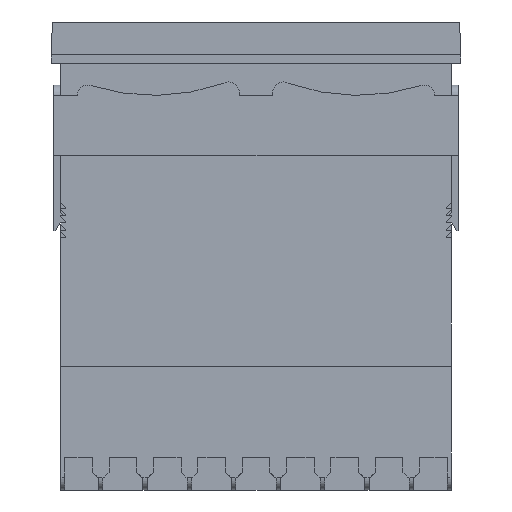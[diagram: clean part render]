
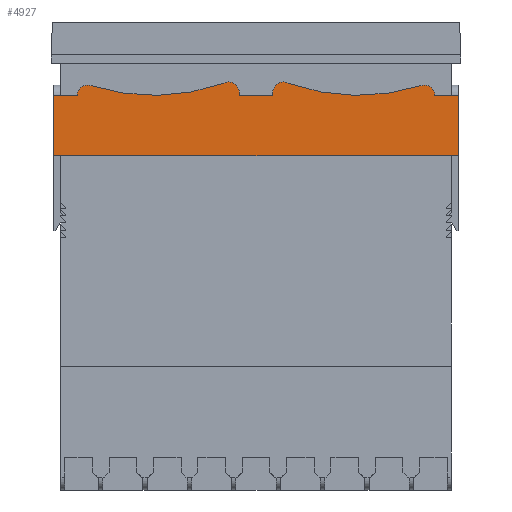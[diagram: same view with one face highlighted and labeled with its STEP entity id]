
A CAD part, left-side view. The second image highlights one B-rep face of the part: STEP entity #4927.
In plain terms, the highlighted planar face has unit normal (-1, 0, 0).
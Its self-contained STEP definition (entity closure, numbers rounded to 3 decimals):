
#320 = CARTESIAN_POINT ( 'NONE',  ( -48.761, -0.813, 14.75 ) ) ;
#432 = CIRCLE ( 'NONE', #5147, 48.6 ) ;
#597 = EDGE_CURVE ( 'NONE', #3193, #18041, #11794, .T. ) ;
#643 = LINE ( 'NONE', #12788, #15044 ) ;
#890 = EDGE_CURVE ( 'NONE', #7067, #5244, #643, .T. ) ;
#986 = ORIENTED_EDGE ( 'NONE', *, *, #18493, .F. ) ;
#1551 = ORIENTED_EDGE ( 'NONE', *, *, #2376, .F. ) ;
#1556 = CARTESIAN_POINT ( 'NONE',  ( -48.761, -38.793, 14. ) ) ;
#1569 = ORIENTED_EDGE ( 'NONE', *, *, #890, .F. ) ;
#1662 = CARTESIAN_POINT ( 'NONE',  ( -48.761, 50.577, 14. ) ) ;
#1707 = CARTESIAN_POINT ( 'NONE',  ( -48.761, -3.313, 14.75 ) ) ;
#1751 = CARTESIAN_POINT ( 'NONE',  ( -48.761, 45.047, 14. ) ) ;
#1869 = DIRECTION ( 'NONE',  ( 0., 0., 1. ) ) ;
#2046 = DIRECTION ( 'NONE',  ( 1., 0., 0. ) ) ;
#2112 = LINE ( 'NONE', #15714, #5132 ) ;
#2319 = DIRECTION ( 'NONE',  ( 0., 1., 0. ) ) ;
#2352 = VERTEX_POINT ( 'NONE', #320 ) ;
#2376 = EDGE_CURVE ( 'NONE', #5485, #18933, #6137, .T. ) ;
#2512 = ORIENTED_EDGE ( 'NONE', *, *, #4126, .F. ) ;
#2663 = DIRECTION ( 'NONE',  ( 0., 1., 0. ) ) ;
#2713 = CARTESIAN_POINT ( 'NONE',  ( -48.761, -4.526, 16.936 ) ) ;
#2978 = ORIENTED_EDGE ( 'NONE', *, *, #18658, .F. ) ;
#3080 = VERTEX_POINT ( 'NONE', #2713 ) ;
#3193 = VERTEX_POINT ( 'NONE', #7510 ) ;
#3195 = DIRECTION ( 'NONE',  ( 0., 1., 0. ) ) ;
#3269 = ORIENTED_EDGE ( 'NONE', *, *, #4496, .F. ) ;
#3274 = LINE ( 'NONE', #12312, #5837 ) ;
#3804 = VERTEX_POINT ( 'NONE', #9318 ) ;
#4042 = DIRECTION ( 'NONE',  ( -1., 0., 0. ) ) ;
#4126 = EDGE_CURVE ( 'NONE', #3804, #12646, #16297, .T. ) ;
#4496 = EDGE_CURVE ( 'NONE', #17857, #7780, #18830, .T. ) ;
#4595 = CIRCLE ( 'NONE', #9400, 48.6 ) ;
#4927 = ADVANCED_FACE ( 'NONE', ( #5556 ), #15193, .F. ) ;
#4936 = CARTESIAN_POINT ( 'NONE',  ( -48.761, 7.067, 14.75 ) ) ;
#5132 = VECTOR ( 'NONE', #8357, 1000. ) ;
#5147 = AXIS2_PLACEMENT_3D ( 'NONE', #16000, #4042, #2663 ) ;
#5244 = VERTEX_POINT ( 'NONE', #8615 ) ;
#5485 = VERTEX_POINT ( 'NONE', #19274 ) ;
#5556 = FACE_OUTER_BOUND ( 'NONE', #7444, .T. ) ;
#5689 = AXIS2_PLACEMENT_3D ( 'NONE', #1662, #14999, #16691 ) ;
#5789 = DIRECTION ( 'NONE',  ( 1., 0., 0. ) ) ;
#5837 = VECTOR ( 'NONE', #13890, 1000. ) ;
#6137 = CIRCLE ( 'NONE', #11393, 2.5 ) ;
#6477 = DIRECTION ( 'NONE',  ( 0., 1., 0. ) ) ;
#6608 = CARTESIAN_POINT ( 'NONE',  ( -48.761, -44.323, 0. ) ) ;
#7067 = VERTEX_POINT ( 'NONE', #19057 ) ;
#7444 = EDGE_LOOP ( 'NONE', ( #17151, #2978, #1551, #12559, #986, #12509, #1569, #13321, #2512, #16354, #3269, #16782, #16293, #13834 ) ) ;
#7510 = CARTESIAN_POINT ( 'NONE',  ( -48.761, 50.577, 0. ) ) ;
#7676 = EDGE_CURVE ( 'NONE', #3080, #5485, #432, .T. ) ;
#7780 = VERTEX_POINT ( 'NONE', #17878 ) ;
#7846 = CARTESIAN_POINT ( 'NONE',  ( -48.761, -36.293, 14. ) ) ;
#7929 = DIRECTION ( 'NONE',  ( 0., 1., 0. ) ) ;
#8115 = EDGE_CURVE ( 'NONE', #7780, #3804, #4595, .T. ) ;
#8225 = DIRECTION ( 'NONE',  ( 0., 1., 0. ) ) ;
#8357 = DIRECTION ( 'NONE',  ( 0., -1., 0. ) ) ;
#8533 = VECTOR ( 'NONE', #8225, 1000. ) ;
#8607 = EDGE_CURVE ( 'NONE', #13371, #3193, #18999, .T. ) ;
#8615 = CARTESIAN_POINT ( 'NONE',  ( -48.761, -0.813, 14. ) ) ;
#8628 = VECTOR ( 'NONE', #17385, 1000. ) ;
#9127 = LINE ( 'NONE', #10165, #15640 ) ;
#9317 = DIRECTION ( 'NONE',  ( 0., -1., 0. ) ) ;
#9318 = CARTESIAN_POINT ( 'NONE',  ( -48.761, 10.779, 16.936 ) ) ;
#9345 = CARTESIAN_POINT ( 'NONE',  ( -48.761, -44.323, 14. ) ) ;
#9361 = DIRECTION ( 'NONE',  ( 1., 0., 0. ) ) ;
#9400 = AXIS2_PLACEMENT_3D ( 'NONE', #12728, #14292, #2319 ) ;
#9515 = CARTESIAN_POINT ( 'NONE',  ( -48.761, 50.577, 14. ) ) ;
#9913 = AXIS2_PLACEMENT_3D ( 'NONE', #1707, #12110, #3195 ) ;
#10165 = CARTESIAN_POINT ( 'NONE',  ( -48.761, -0.813, 10.1 ) ) ;
#10639 = VECTOR ( 'NONE', #9317, 1000. ) ;
#11046 = CARTESIAN_POINT ( 'NONE',  ( -48.761, 50.577, 14. ) ) ;
#11078 = EDGE_CURVE ( 'NONE', #2352, #5244, #9127, .T. ) ;
#11130 = CIRCLE ( 'NONE', #9913, 2.5 ) ;
#11393 = AXIS2_PLACEMENT_3D ( 'NONE', #7846, #2046, #6477 ) ;
#11794 = LINE ( 'NONE', #18084, #14595 ) ;
#12110 = DIRECTION ( 'NONE',  ( 1., 0., 0. ) ) ;
#12312 = CARTESIAN_POINT ( 'NONE',  ( -48.761, -44.323, 14. ) ) ;
#12509 = ORIENTED_EDGE ( 'NONE', *, *, #11078, .T. ) ;
#12559 = ORIENTED_EDGE ( 'NONE', *, *, #7676, .F. ) ;
#12646 = VERTEX_POINT ( 'NONE', #4936 ) ;
#12728 = CARTESIAN_POINT ( 'NONE',  ( -48.761, 27.107, 62.712 ) ) ;
#12788 = CARTESIAN_POINT ( 'NONE',  ( -48.761, 50.577, 14. ) ) ;
#12899 = AXIS2_PLACEMENT_3D ( 'NONE', #17117, #5789, #14257 ) ;
#13276 = VERTEX_POINT ( 'NONE', #9345 ) ;
#13321 = ORIENTED_EDGE ( 'NONE', *, *, #16840, .T. ) ;
#13371 = VERTEX_POINT ( 'NONE', #6608 ) ;
#13834 = ORIENTED_EDGE ( 'NONE', *, *, #8607, .F. ) ;
#13890 = DIRECTION ( 'NONE',  ( 0., 0., -1. ) ) ;
#14216 = LINE ( 'NONE', #17130, #8628 ) ;
#14257 = DIRECTION ( 'NONE',  ( 0., 1., 0. ) ) ;
#14292 = DIRECTION ( 'NONE',  ( -1., 0., 0. ) ) ;
#14595 = VECTOR ( 'NONE', #1869, 1000. ) ;
#14999 = DIRECTION ( 'NONE',  ( 1., 0., 0. ) ) ;
#15044 = VECTOR ( 'NONE', #17349, 1000. ) ;
#15193 = PLANE ( 'NONE',  #5689 ) ;
#15572 = CARTESIAN_POINT ( 'NONE',  ( -48.761, 50.577, 0. ) ) ;
#15640 = VECTOR ( 'NONE', #16206, 1000. ) ;
#15714 = CARTESIAN_POINT ( 'NONE',  ( -48.761, 50.577, 14. ) ) ;
#15727 = EDGE_CURVE ( 'NONE', #13276, #13371, #3274, .T. ) ;
#16000 = CARTESIAN_POINT ( 'NONE',  ( -48.761, -20.853, 62.712 ) ) ;
#16206 = DIRECTION ( 'NONE',  ( 0., 0., -1. ) ) ;
#16293 = ORIENTED_EDGE ( 'NONE', *, *, #597, .F. ) ;
#16297 = CIRCLE ( 'NONE', #12899, 2.5 ) ;
#16354 = ORIENTED_EDGE ( 'NONE', *, *, #8115, .F. ) ;
#16361 = EDGE_CURVE ( 'NONE', #18041, #17857, #2112, .T. ) ;
#16667 = AXIS2_PLACEMENT_3D ( 'NONE', #18279, #9361, #7929 ) ;
#16691 = DIRECTION ( 'NONE',  ( 0., 1., 0. ) ) ;
#16782 = ORIENTED_EDGE ( 'NONE', *, *, #16361, .F. ) ;
#16840 = EDGE_CURVE ( 'NONE', #7067, #12646, #14216, .T. ) ;
#17117 = CARTESIAN_POINT ( 'NONE',  ( -48.761, 9.567, 14.75 ) ) ;
#17130 = CARTESIAN_POINT ( 'NONE',  ( -48.761, 7.067, 10.1 ) ) ;
#17151 = ORIENTED_EDGE ( 'NONE', *, *, #15727, .F. ) ;
#17349 = DIRECTION ( 'NONE',  ( 0., -1., 0. ) ) ;
#17385 = DIRECTION ( 'NONE',  ( 0., 0., 1. ) ) ;
#17857 = VERTEX_POINT ( 'NONE', #1751 ) ;
#17878 = CARTESIAN_POINT ( 'NONE',  ( -48.761, 41.791, 16.383 ) ) ;
#18041 = VERTEX_POINT ( 'NONE', #11046 ) ;
#18084 = CARTESIAN_POINT ( 'NONE',  ( -48.761, 50.577, 14. ) ) ;
#18101 = LINE ( 'NONE', #9515, #10639 ) ;
#18279 = CARTESIAN_POINT ( 'NONE',  ( -48.761, 42.547, 14. ) ) ;
#18493 = EDGE_CURVE ( 'NONE', #2352, #3080, #11130, .T. ) ;
#18658 = EDGE_CURVE ( 'NONE', #18933, #13276, #18101, .T. ) ;
#18830 = CIRCLE ( 'NONE', #16667, 2.5 ) ;
#18933 = VERTEX_POINT ( 'NONE', #1556 ) ;
#18999 = LINE ( 'NONE', #15572, #8533 ) ;
#19057 = CARTESIAN_POINT ( 'NONE',  ( -48.761, 7.067, 14. ) ) ;
#19274 = CARTESIAN_POINT ( 'NONE',  ( -48.761, -35.538, 16.383 ) ) ;
